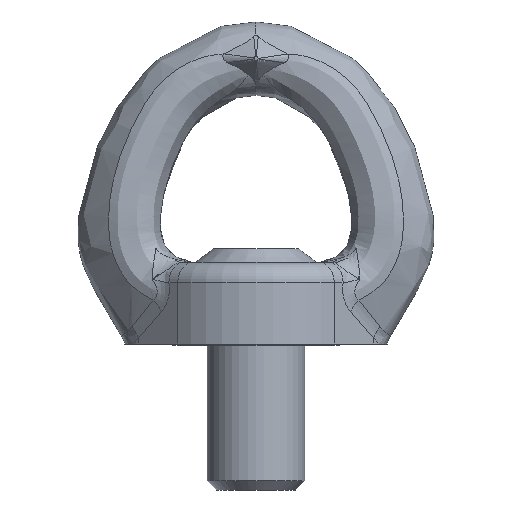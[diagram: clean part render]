
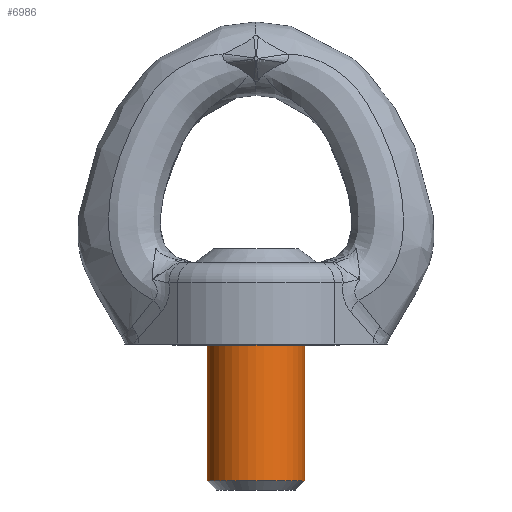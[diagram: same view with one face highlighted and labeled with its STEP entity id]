
A CAD part, front view. The second image highlights one B-rep face of the part: STEP entity #6986.
In plain terms, the highlighted cylindrical face has radius 12 mm (diameter 24 mm), a full revolution.
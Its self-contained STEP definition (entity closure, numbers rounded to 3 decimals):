
#760=FACE_BOUND('',#2418,.T.);
#1945=FACE_OUTER_BOUND('',#2417,.T.);
#2417=EDGE_LOOP('',(#6448));
#2418=EDGE_LOOP('',(#6449));
#2637=CIRCLE('',#7521,12.);
#2638=CIRCLE('',#7524,12.);
#3399=VERTEX_POINT('',#25380);
#3400=VERTEX_POINT('',#25384);
#4419=EDGE_CURVE('',#3399,#3399,#2637,.T.);
#4420=EDGE_CURVE('',#3400,#3400,#2638,.T.);
#6448=ORIENTED_EDGE('',*,*,#4420,.F.);
#6449=ORIENTED_EDGE('',*,*,#4419,.F.);
#6545=CYLINDRICAL_SURFACE('',#7523,12.);
#6986=ADVANCED_FACE('',(#1945,#760),#6545,.T.);
#7521=AXIS2_PLACEMENT_3D('',#25381,#8772,#8773);
#7523=AXIS2_PLACEMENT_3D('',#25383,#8776,#8777);
#7524=AXIS2_PLACEMENT_3D('',#25385,#8778,#8779);
#8772=DIRECTION('center_axis',(0.,0.,-1.));
#8773=DIRECTION('ref_axis',(0.,1.,0.));
#8776=DIRECTION('center_axis',(0.,0.,1.));
#8777=DIRECTION('ref_axis',(0.,-1.,0.));
#8778=DIRECTION('center_axis',(0.,0.,1.));
#8779=DIRECTION('ref_axis',(0.,-1.,0.));
#25380=CARTESIAN_POINT('',(0.,-12.,-47.75));
#25381=CARTESIAN_POINT('Origin',(0.,0.,-47.75));
#25383=CARTESIAN_POINT('Origin',(0.,0.,-32.066));
#25384=CARTESIAN_POINT('',(0.,-12.,-14.131));
#25385=CARTESIAN_POINT('Origin',(0.,0.,-14.131));
